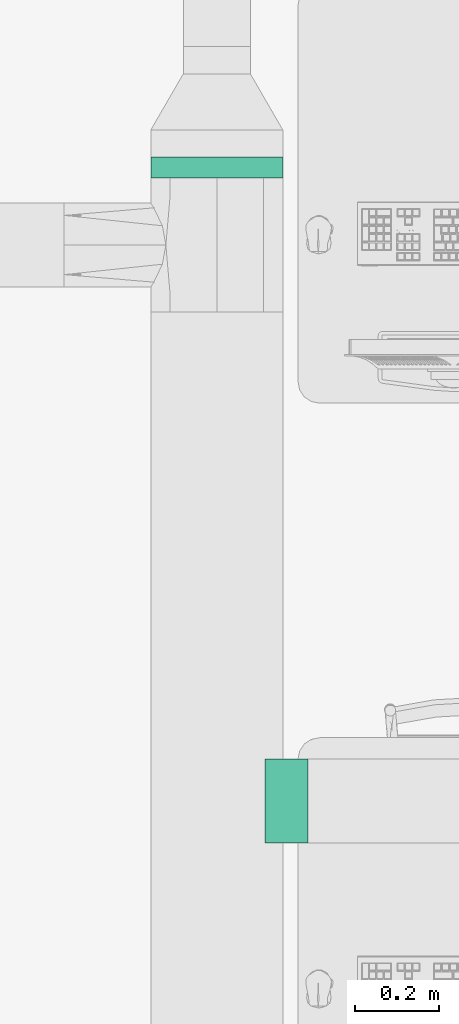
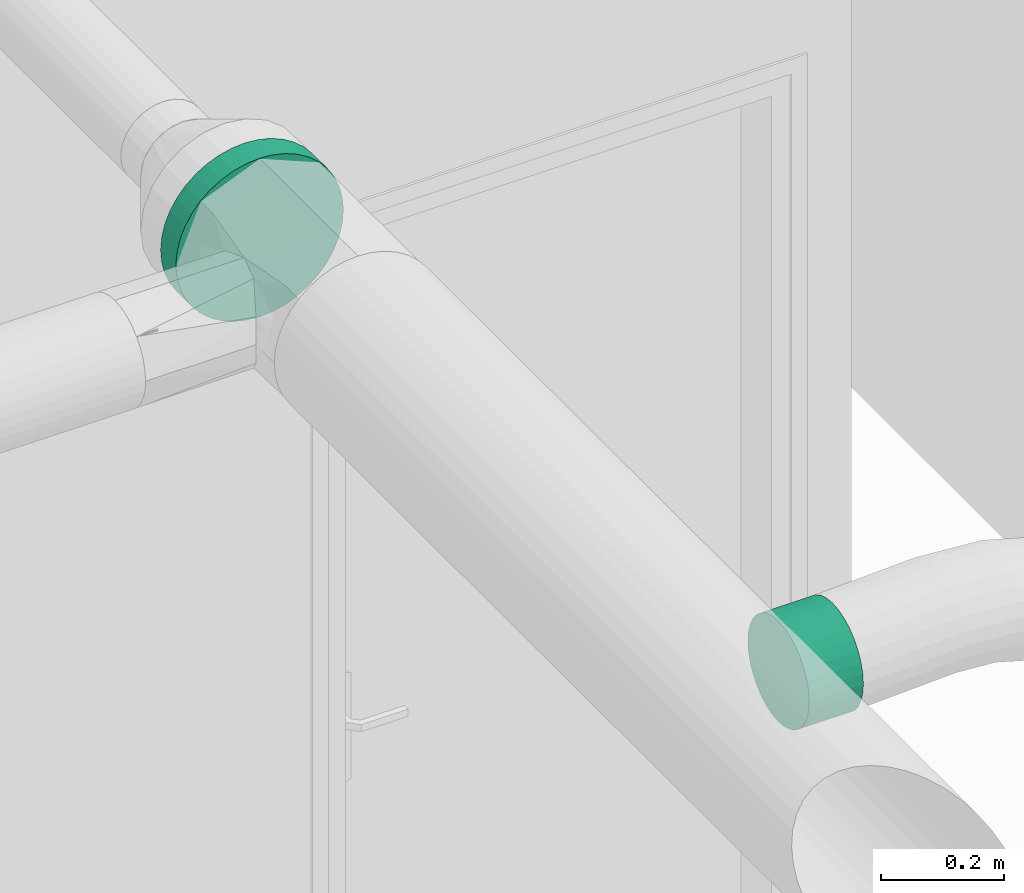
# One storey, part 15 of 31: 1 flow fitting, 1 flow segment.
"""IFC2X3 building model written with IfcOpenShell, lengths in millimetres."""

from ifc_helpers import new_model, entity, si_unit, converted_unit, derived_unit, direction, frame, frame_2d, origin, place, context, subcontext, project, spatial, circle, extrude, source, transform, mapped, material, material_list, type_object, type_shapes, element, save


model = new_model("IFC2X3")

# Units and contexts
model_context = context("Model", 3, precision=0.01, world=origin(), true_north=direction((6.123031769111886e-17, 1.0)))
body_context = subcontext(model_context, "Body", "Model", "MODEL_VIEW")
ifc_project = project(units=[si_unit("LENGTHUNIT", "METRE", prefix="MILLI"), si_unit("AREAUNIT", "SQUARE_METRE"), si_unit("VOLUMEUNIT", "CUBIC_METRE"), converted_unit("PLANEANGLEUNIT", "DEGREE", entity("IfcRatioMeasure", 0.017453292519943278), si_unit("PLANEANGLEUNIT", "RADIAN"), dimensions=[0, 0, 0, 0, 0, 0, 0]), si_unit("MASSUNIT", "GRAM", prefix="KILO"), derived_unit("MASSDENSITYUNIT", [(si_unit("MASSUNIT", "GRAM", prefix="KILO"), 1), (si_unit("LENGTHUNIT", "METRE"), -3)]), derived_unit("MOMENTOFINERTIAUNIT", [(si_unit("LENGTHUNIT", "METRE"), 4)]), si_unit("TIMEUNIT", "SECOND"), si_unit("FREQUENCYUNIT", "HERTZ"), si_unit("THERMODYNAMICTEMPERATUREUNIT", "DEGREE_CELSIUS"), derived_unit("THERMALTRANSMITTANCEUNIT", [(si_unit("MASSUNIT", "GRAM", prefix="KILO"), 1), (si_unit("THERMODYNAMICTEMPERATUREUNIT", "KELVIN"), -1), (si_unit("TIMEUNIT", "SECOND"), -3)]), derived_unit("VOLUMETRICFLOWRATEUNIT", [(si_unit("LENGTHUNIT", "METRE"), 3), (si_unit("TIMEUNIT", "SECOND"), -1)]), derived_unit("MASSFLOWRATEUNIT", [(si_unit("MASSUNIT", "GRAM", prefix="KILO"), 1), (si_unit("TIMEUNIT", "SECOND"), -1)]), derived_unit("ROTATIONALFREQUENCYUNIT", [(si_unit("TIMEUNIT", "SECOND"), -1)]), si_unit("ELECTRICCURRENTUNIT", "AMPERE"), si_unit("ELECTRICVOLTAGEUNIT", "VOLT"), si_unit("POWERUNIT", "WATT"), si_unit("FORCEUNIT", "NEWTON", prefix="KILO"), si_unit("ILLUMINANCEUNIT", "LUX"), si_unit("LUMINOUSFLUXUNIT", "LUMEN"), si_unit("LUMINOUSINTENSITYUNIT", "CANDELA"), derived_unit("USERDEFINED", [(si_unit("MASSUNIT", "GRAM", prefix="KILO"), -1), (si_unit("LENGTHUNIT", "METRE"), -2), (si_unit("TIMEUNIT", "SECOND"), 3), (si_unit("LUMINOUSFLUXUNIT", "LUMEN"), 1)]), derived_unit("SOUNDPOWERUNIT", [(si_unit("MASSUNIT", "GRAM", prefix="KILO"), 1), (si_unit("LENGTHUNIT", "METRE"), 2), (si_unit("TIMEUNIT", "SECOND"), -3)]), derived_unit("SOUNDPRESSUREUNIT", [(si_unit("MASSUNIT", "GRAM", prefix="KILO"), 1), (si_unit("LENGTHUNIT", "METRE"), -1), (si_unit("TIMEUNIT", "SECOND"), -2)]), derived_unit("LINEARVELOCITYUNIT", [(si_unit("LENGTHUNIT", "METRE"), 1), (si_unit("TIMEUNIT", "SECOND"), -1)]), si_unit("PRESSUREUNIT", "PASCAL"), derived_unit("USERDEFINED", [(si_unit("LENGTHUNIT", "METRE"), -2), (si_unit("MASSUNIT", "GRAM", prefix="KILO"), 1), (si_unit("TIMEUNIT", "SECOND"), -2)]), derived_unit("LINEARFORCEUNIT", [(si_unit("MASSUNIT", "GRAM", prefix="KILO"), 1), (si_unit("LENGTHUNIT", "METRE"), 1), (si_unit("TIMEUNIT", "SECOND"), -2), (si_unit("LENGTHUNIT", "METRE"), -1)]), derived_unit("PLANARFORCEUNIT", [(si_unit("MASSUNIT", "GRAM", prefix="KILO"), 1), (si_unit("LENGTHUNIT", "METRE"), 1), (si_unit("TIMEUNIT", "SECOND"), -2), (si_unit("LENGTHUNIT", "METRE"), -2)])], contexts=[model_context])

# Site, building, storey
site_placement = place(None, origin())
site = spatial("IfcSite", under=ifc_project, at=site_placement, Name="Default", CompositionType="ELEMENT")
building_placement = place(site_placement, origin())
building = spatial("IfcBuilding", under=site, at=building_placement, CompositionType="ELEMENT")
storey_placement = place(building_placement, frame((0.0, 0.0, 3880.0)))
storey = spatial("IfcBuildingStorey", under=building, at=storey_placement, Name="Niveau 1", CompositionType="ELEMENT", Elevation=3880.0)

# Flow segment
duct_segment_type = type_object("IfcDuctSegmentType", Name="Gaine circulaire:Té / Coude Aldes", PredefinedType="NOTDEFINED")
flow_segment_placement = place(storey_placement, origin())
element("IfcFlowSegment", 1, at=flow_segment_placement, inside=storey, type_object=duct_segment_type, Name="Gaine circulaire:Té / Coude Aldes", ObjectType="Gaine circulaire:Té / Coude Aldes", context=body_context, shape_type="SweptSolid", body=[
    extrude(circle(Radius=157.5, at=frame_2d((2.707167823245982e-13, 0.0), x_axis=(1.0, 0.0))), frame((-2195.0, -4282.355420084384, 3150.0), z_axis=(0.0, 1.0, 0.0), x_axis=(1.0, 0.0, 0.0)), (0.0, 0.0, 1.0), 49.80288721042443),
])

# Flow fitting
ifc_material = material(Name="<Unnamed>")
ifc_material_list_1 = material_list([ifc_material, ifc_material, ifc_material])
ifc_material_list_2 = material_list([ifc_material, ifc_material, ifc_material])
duct_fitting_type = type_object("IfcDuctFittingType", Name="Piquage Aldes:Standard", PredefinedType="NOTDEFINED", material=ifc_material_list_2)
shared_shape = source(origin(), body_context, "Body", "SweptSolid", [
    extrude(circle(Radius=100.0, at=frame_2d((2.8067953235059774e-13, -4.0729942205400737e-13), x_axis=(1.0, 0.0))), frame((10.0, 0.0, 0.0), z_axis=(1.0, 0.0, 0.0), x_axis=(0.0, 1.0, 0.0)), (0.0, 0.0, 1.0), 50.00000000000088),
    extrude(circle(Radius=100.0, at=frame_2d((2.8067953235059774e-13, -4.0729942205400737e-13), x_axis=(1.0, 0.0))), frame((0.0, 0.0, 0.0), z_axis=(1.0, 0.0, 0.0), x_axis=(0.0, 1.0, 0.0)), (0.0, 0.0, 1.0), 10.000000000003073),
    extrude(circle(Radius=100.0, at=frame_2d((2.751722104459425e-13, -4.0412642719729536e-13), x_axis=(1.0, 0.0))), frame((-41.91506476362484, 0.0, 0.0), z_axis=(1.0, 0.0, 0.0), x_axis=(0.0, 1.0, 0.0)), (0.0, 0.0, 1.0), 41.91506476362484),
])
type_shapes(duct_fitting_type, [shared_shape])
flow_fitting_placement = place(storey_placement, frame((-2037.5000000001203, -5770.0, 3150.0), z_axis=(0.0, 0.0, -1.0), x_axis=(1.0, 0.0, 0.0)))
element("IfcFlowFitting", 2, at=flow_fitting_placement, inside=storey, type_object=duct_fitting_type, material=ifc_material_list_1, Name="Piquage Aldes:Standard", ObjectType="Piquage Aldes:Standard", context=body_context, shape_type="MappedRepresentation", body=[
    mapped(shared_shape, transform((0.0, 0.0, 0.0), scale=1.0)),
])

save(model, "model.ifc")
